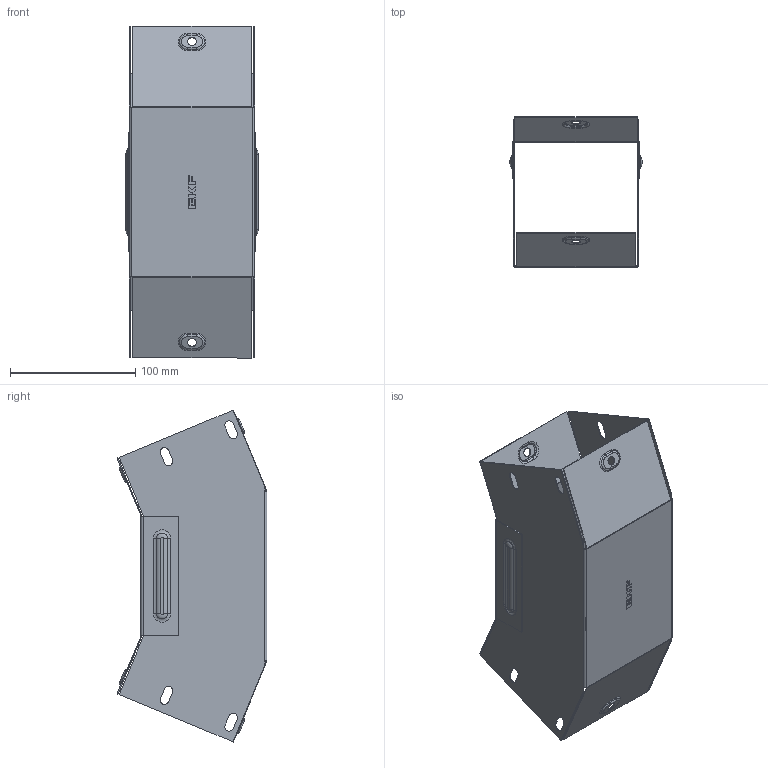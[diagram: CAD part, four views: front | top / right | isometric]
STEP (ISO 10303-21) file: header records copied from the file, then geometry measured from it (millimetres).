
FILE_DESCRIPTION (( 'STEP AP214' ), '1' );
FILE_NAME ('vi45100100_捘.STEP', '2019-06-10T08:30:42', ( '砐錪賧瘔蠈錪 Windows' ), ( '' ), 'SwSTEP 2.0', 'SolidWorks 2018', '' );
FILE_SCHEMA (( 'AUTOMOTIVE_DESIGN' ));
Length unit declared in the file: millimetre
Products named in the file (1): vi45100100_捘
Bounding box: 105.6 x 119.93 x 265.55 mm (x, y, z)
Volume: 78210.1 mm3; surface area: 197642.5 mm2
Topology: 2 solids, 2 shells, 436 faces, 1116 edges, 712 vertices
Faces by surface type: plane 230, cylinder 124, torus 64, bspline 18
Entity records: 14120 total; most frequent: CARTESIAN_POINT 3284, DIRECTION 2262, ORIENTED_EDGE 2232, EDGE_CURVE 1116, AXIS2_PLACEMENT_3D 763, VECTOR 736, LINE 736, VERTEX_POINT 712
